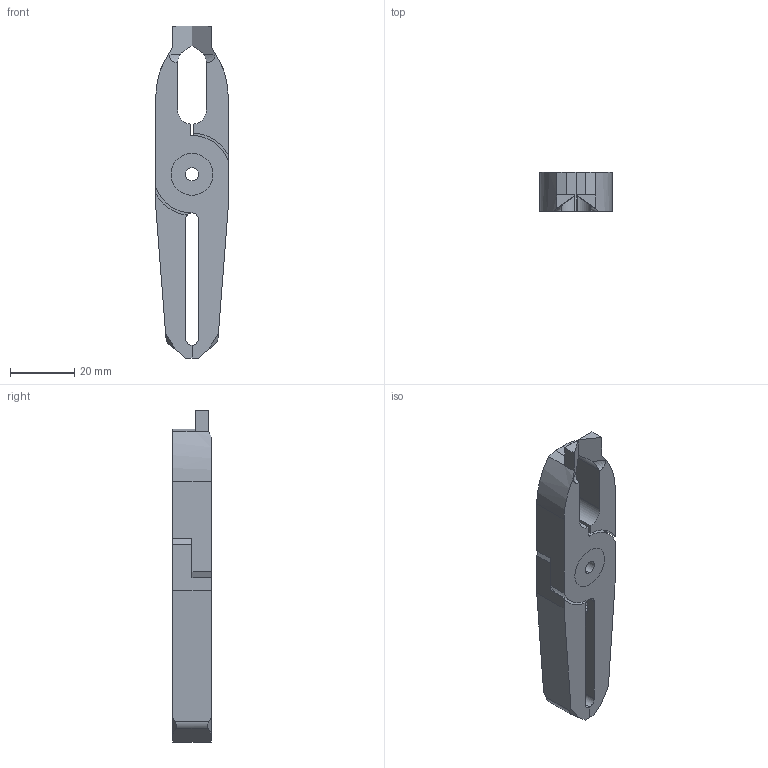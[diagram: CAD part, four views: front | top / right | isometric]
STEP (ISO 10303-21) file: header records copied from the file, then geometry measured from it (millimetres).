
FILE_DESCRIPTION (( 'STEP AP214' ), '1' );
FILE_NAME ('NT20AD.STEP', '2019-11-29T00:40:45', ( '微软用户' ), ( '微软中国' ), 'SwSTEP 2.0', 'SolidWorks 2016', '' );
FILE_SCHEMA (( 'AUTOMOTIVE_DESIGN' ));
Length unit declared in the file: millimetre
Products named in the file (4): BR2; BR1; BS; NT20AD
Assembly tree (3 placements, depth 2):
  NT20AD
    BS
    BR1
    BR2
Bounding box: 22.5 x 12 x 103 mm (x, y, z)
Volume: 18186.9 mm3; surface area: 10219.4 mm2
Topology: 3 solids, 3 shells, 98 faces, 254 edges, 160 vertices
Faces by surface type: plane 46, cylinder 24, cone 16, bspline 12
Entity records: 3234 total; most frequent: CARTESIAN_POINT 774, ORIENTED_EDGE 500, DIRECTION 466, EDGE_CURVE 250, LINE 162, VECTOR 162, VERTEX_POINT 160, AXIS2_PLACEMENT_3D 152
